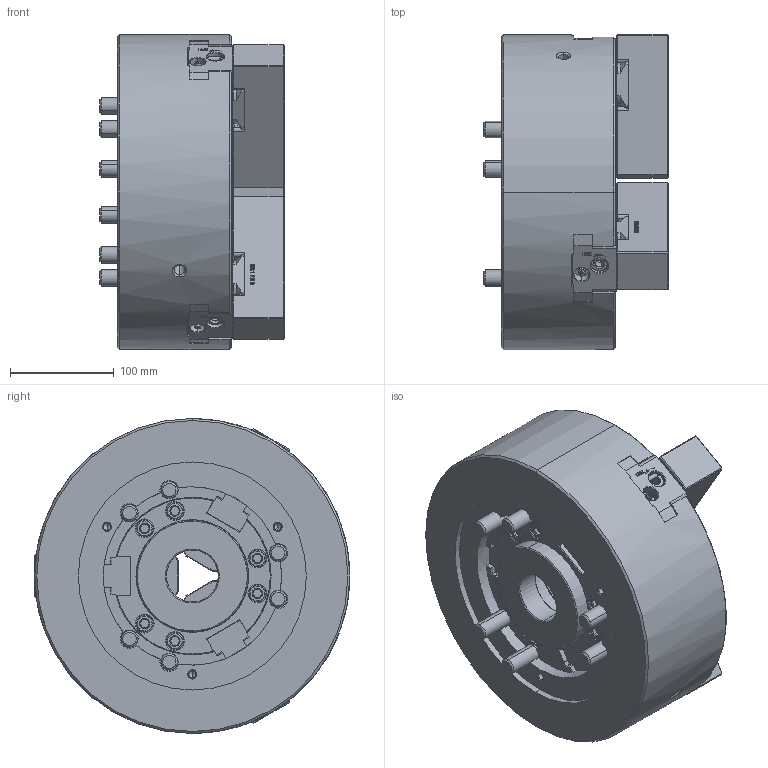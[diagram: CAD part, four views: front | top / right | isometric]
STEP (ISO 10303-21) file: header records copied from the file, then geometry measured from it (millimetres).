
FILE_DESCRIPTION (( 'STEP AP214' ), '1' );
FILE_NAME ('DT1_QB312_OUTSIDE_VIEW_HCL.STEP', '2025-12-05T07:15:04', ( '' ), ( '' ), 'SwSTEP 2.0', 'SolidWorks 2022', '' );
FILE_SCHEMA (( 'AUTOMOTIVE_DESIGN' ));
Length unit declared in the file: millimetre
Products named in the file (7): DT1_QB312_DRAWNUT^DT1_QB312; DT1_QB312_M16x110^DT1_QB312; DT1_QB312_BASE^DT1_QB312; DT1_QB312_M6x10^DT1_QB312; DT1_QB312_OUTSIDE_VIEW_HCL; DT1_QB312_SOFTJAW^DT1_QB312; DT1_QB312_COVER^DT1_QB312
Assembly tree (15 placements, depth 2):
  DT1_QB312_OUTSIDE_VIEW_HCL
    DT1_QB312_SOFTJAW^DT1_QB312  x3
    DT1_QB312_DRAWNUT^DT1_QB312
    DT1_QB312_COVER^DT1_QB312
    DT1_QB312_M6x10^DT1_QB312  x3
    DT1_QB312_M16x110^DT1_QB312  x6
    DT1_QB312_BASE^DT1_QB312
Bounding box: 178 x 304.62 x 304 mm (x, y, z)
Volume: 7825915.1 mm3; surface area: 565442 mm2
Topology: 15 solids, 18 shells, 2599 faces, 6776 edges, 4345 vertices
Faces by surface type: plane 1208, bspline 482, cylinder 425, cone 406, torus 66, sphere 12
Entity records: 75735 total; most frequent: CARTESIAN_POINT 27774, ORIENTED_EDGE 10536, DIRECTION 8728, EDGE_CURVE 5268, VERTEX_POINT 3408, AXIS2_PLACEMENT_3D 2936, LINE 2856, VECTOR 2856
